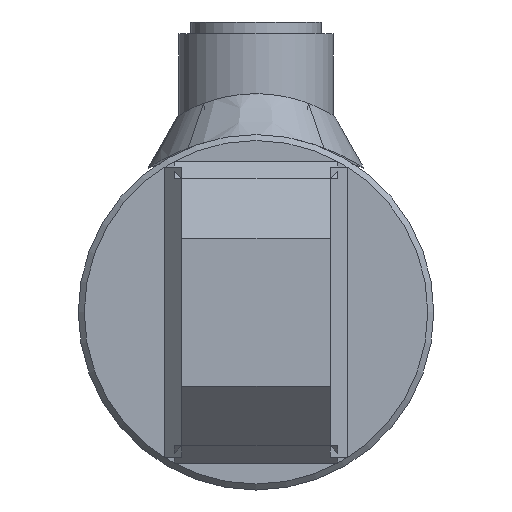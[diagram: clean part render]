
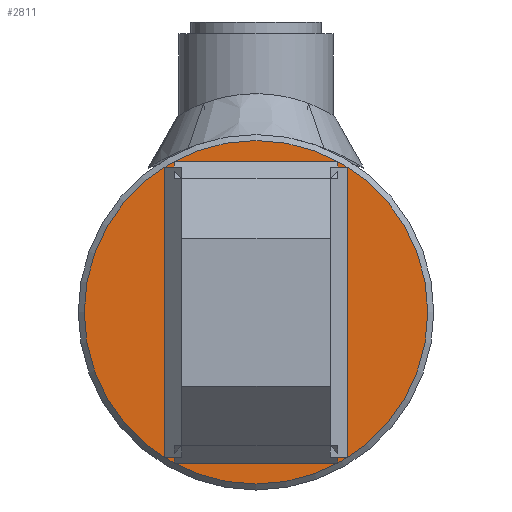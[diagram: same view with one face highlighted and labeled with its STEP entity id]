
A CAD part, left-side view. The second image highlights one B-rep face of the part: STEP entity #2811.
In plain terms, the highlighted planar face has unit normal (-1, 0, 0).
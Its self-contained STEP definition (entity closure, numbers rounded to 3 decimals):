
#2811 = ADVANCED_FACE( '', ( #6298 ), #6299, .T. );
#6298 = FACE_OUTER_BOUND( '', #8406, .T. );
#6299 = PLANE( '', #8407 );
#8406 = EDGE_LOOP( '', ( #9288 ) );
#8407 = AXIS2_PLACEMENT_3D( '', #9289, #9290, #9291 );
#9288 = ORIENTED_EDGE( '', *, *, #10657, .T. );
#9289 = CARTESIAN_POINT( '', ( -10., 0., 0. ) );
#9290 = DIRECTION( '', ( -1., 0., 0. ) );
#9291 = DIRECTION( '', ( 0., -1., 0. ) );
#10657 = EDGE_CURVE( '', #13009, #13009, #13010, .T. );
#13009 = VERTEX_POINT( '', #13914 );
#13010 = CIRCLE( '', #13915, 29. );
#13914 = CARTESIAN_POINT( '', ( -10., -29., 0. ) );
#13915 = AXIS2_PLACEMENT_3D( '', #14130, #14131, #14132 );
#14130 = CARTESIAN_POINT( '', ( -10., 0., 0. ) );
#14131 = DIRECTION( '', ( -1., 0., 0. ) );
#14132 = DIRECTION( '', ( 0., -1., 0. ) );
